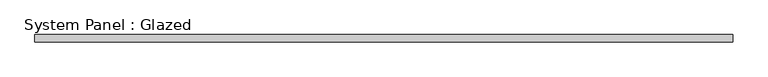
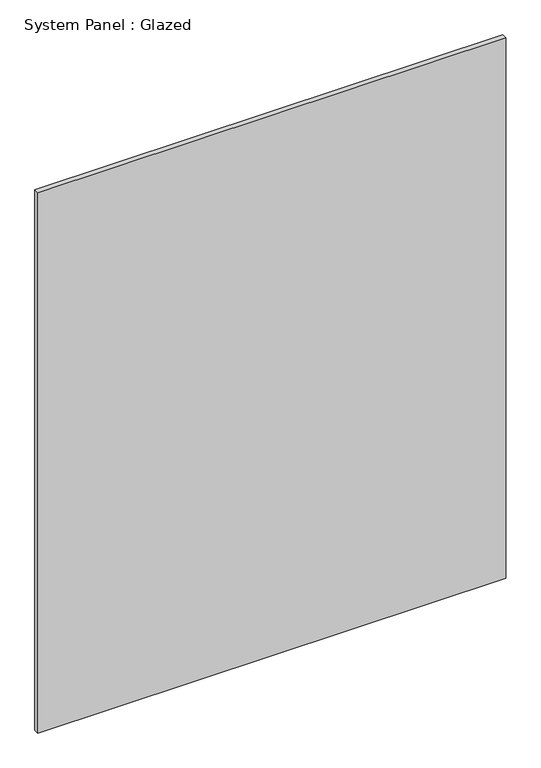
"""IFC4 building model written with IfcOpenShell, lengths in millimetres: plate geometry, System Panel : Glazed."""

import ifcopenshell
import ifcopenshell.guid

model = None  # the IFC model being written
_history = None  # IfcOwnerHistory: only IFC2X3 demands one
_inside = {}  # id of a spatial element -> (the spatial element, [elements in it])
_under = {}  # id of a project, library or spatial element -> (it, [spatial elements below it])
_declared = {}  # id of a project -> (the project, [libraries it declares])
_typed = {}  # id of a type object -> (the type object, [elements of that type])
_made_of = {}  # id of a material, layer set ... -> (it, [elements and type objects made of it])


def new_model(schema):
    """Start an empty IFC model of exactly this schema.

    Asked for "IFC4X3", IfcOpenShell would pick the latest addendum, in which some entities
    have other attributes; the version numbers below select the first issue.
    IFC2X3 requires an IfcOwnerHistory on every rooted entity: one is made here for all.
    """
    global model, _history
    if schema == "IFC4X3":
        model = ifcopenshell.file(schema_version=(4, 3, 0, 0))
    else:
        model = ifcopenshell.file(schema=schema)
    _inside.clear()
    _under.clear()
    _declared.clear()
    _typed.clear()
    _made_of.clear()
    _history = None
    if model.schema == "IFC2X3":
        org = make("IfcOrganization", Name="unknown")
        user = make(
            "IfcPersonAndOrganization",
            ThePerson=make("IfcPerson", FamilyName="unknown"),
            TheOrganization=org,
        )
        app = make(
            "IfcApplication",
            ApplicationDeveloper=org,
            Version="unknown",
            ApplicationFullName="unknown",
            ApplicationIdentifier="unknown",
        )
        _history = make(
            "IfcOwnerHistory",
            OwningUser=user,
            OwningApplication=app,
            ChangeAction="ADDED",
            CreationDate=0,
        )
    return model


def make(cls, **values):
    """One entity of the class cls with the attributes given. An attribute that is None is left unset."""
    return model.create_entity(
        cls, **{name: value for name, value in values.items() if value is not None}
    )


def rooted(cls, **values):
    """An entity with a GlobalId (a new one), such as an element, a storey or a relation."""
    return make(cls, GlobalId=ifcopenshell.guid.new(), OwnerHistory=_history, **values)


def si_unit(unit_type, name, prefix=None):
    """IfcSIUnit, for example si_unit("LENGTHUNIT", "METRE", prefix="MILLI")."""
    return make("IfcSIUnit", UnitType=unit_type, Prefix=prefix, Name=name)


def assignment(units):
    """IfcUnitAssignment: the units of a project."""
    return None if units is None else make("IfcUnitAssignment", Units=units)


def point(xyz):
    """IfcCartesianPoint."""
    return None if xyz is None else make("IfcCartesianPoint", Coordinates=xyz)


def direction(xyz):
    """IfcDirection."""
    return None if xyz is None else make("IfcDirection", DirectionRatios=xyz)


def frame(location, z_axis=None, x_axis=None):
    """IfcAxis2Placement3D, a coordinate frame: its origin and axes. An axis left out is left unset."""
    return make(
        "IfcAxis2Placement3D",
        Location=point(location),
        Axis=direction(z_axis),
        RefDirection=direction(x_axis),
    )


def origin():
    """The frame at (0, 0, 0) with its axes left unset."""
    return frame((0.0, 0.0, 0.0))


def origin_with_axes():
    """The frame at (0, 0, 0) with the z axis (0, 0, 1) and the x axis (1, 0, 0) written out."""
    return frame((0.0, 0.0, 0.0), z_axis=(0.0, 0.0, 1.0), x_axis=(1.0, 0.0, 0.0))


def place(relative_to, where):
    """IfcLocalPlacement: puts the frame where relative to a parent placement (None: the world)."""
    return make(
        "IfcLocalPlacement", PlacementRelTo=relative_to, RelativePlacement=where
    )


def context(
    kind, dimensions, precision=None, world=None, true_north=None, identifier=None
):
    """IfcGeometricRepresentationContext, for example the 3D "Model" context."""
    return make(
        "IfcGeometricRepresentationContext",
        ContextIdentifier=identifier,
        ContextType=kind,
        CoordinateSpaceDimension=dimensions,
        Precision=precision,
        WorldCoordinateSystem=world,
        TrueNorth=true_north,
    )


def project(units=None, contexts=None):
    """IfcProject with its units and contexts."""
    return rooted(
        "IfcProject",
        Name="project",
        RepresentationContexts=contexts,
        UnitsInContext=assignment(units),
    )


def spatial(cls, under=None, at=None, **own):
    """A site, building, storey or space (cls), placed at a placement, below another one or the project."""
    s = rooted(cls, ObjectPlacement=at, **own)
    if under is not None:
        _under.setdefault(under.id(), (under, []))[1].append(s)
    return s


def polyline(points):
    """IfcPolyline through the points."""
    return make("IfcPolyline", Points=[point(p) for p in points])


def outline(outer, holes=None, kind="AREA"):
    """IfcArbitraryClosedProfileDef: a profile drawn as a closed curve; with holes, ...WithVoids."""
    if holes is None:
        return make("IfcArbitraryClosedProfileDef", ProfileType=kind, OuterCurve=outer)
    return make(
        "IfcArbitraryProfileDefWithVoids",
        ProfileType=kind,
        OuterCurve=outer,
        InnerCurves=holes,
    )


def extrude(swept, where, along, depth):
    """IfcExtrudedAreaSolid: the profile swept, set in the frame where, extruded along a direction by depth."""
    return make(
        "IfcExtrudedAreaSolid",
        SweptArea=swept,
        Position=where,
        ExtrudedDirection=direction(along),
        Depth=depth,
    )


def shape(context_of_items, identifier, shape_type, items):
    """IfcShapeRepresentation: the items that make up one representation, for example the "Body"."""
    return make(
        "IfcShapeRepresentation",
        ContextOfItems=context_of_items,
        RepresentationIdentifier=identifier,
        RepresentationType=shape_type,
        Items=items,
    )


def source(mapping_origin, context_of_items, identifier, shape_type, items):
    """IfcRepresentationMap: a shape defined once, which mapped items show again and again."""
    return make(
        "IfcRepresentationMap",
        MappingOrigin=mapping_origin,
        MappedRepresentation=shape(context_of_items, identifier, shape_type, items),
    )


def transform(
    local_origin,
    x_axis=None,
    y_axis=None,
    z_axis=None,
    scale=None,
    scale2=None,
    scale3=None,
    uniform=True,
):
    """IfcCartesianTransformationOperator3D, or its non-uniform kind. x_axis, y_axis, z_axis: its Axis1, 2, 3."""
    if uniform:
        return make(
            "IfcCartesianTransformationOperator3D",
            Axis1=direction(x_axis),
            Axis2=direction(y_axis),
            LocalOrigin=point(local_origin),
            Scale=scale,
            Axis3=direction(z_axis),
        )
    return make(
        "IfcCartesianTransformationOperator3DnonUniform",
        Axis1=direction(x_axis),
        Axis2=direction(y_axis),
        LocalOrigin=point(local_origin),
        Scale=scale,
        Axis3=direction(z_axis),
        Scale2=scale2,
        Scale3=scale3,
    )


def mapped(mapping_source, mapping_target):
    """IfcMappedItem: shows the shape of a source again, moved by a transform."""
    return make(
        "IfcMappedItem", MappingSource=mapping_source, MappingTarget=mapping_target
    )


def made_of(thing, what):
    """Note that an element or type object is made of a material, layer set ...; save() writes the relation."""
    if what is not None:
        _made_of.setdefault(what.id(), (what, []))[1].append(thing)
    return thing


def element(
    cls,
    number,
    at=None,
    inside=None,
    cuts=None,
    type_object=None,
    material=None,
    context=None,
    identifier="Body",
    shape_type=None,
    held_by="IfcProductDefinitionShape",
    body=None,
    shapes=None,
    **own,
):
    """One element of the class cls, such as IfcWall. Its Tag is "e" and its number.

    at: its placement. inside: the storey or other place that contains it. cuts: it is an
    opening in that element (IfcRelVoidsElement). A single representation is given by context,
    identifier, shape_type and body (its items); several are given by shapes. held_by: the class
    of the entity that holds the representations. save() writes the other relations.
    """
    e = rooted(cls, Tag="e%d" % number, ObjectPlacement=at, **own)
    if body is not None:
        shapes = [shape(context, identifier, shape_type, body)]
    if shapes is not None:
        e.Representation = make(held_by, Representations=shapes)
    if inside is not None:
        _inside.setdefault(inside.id(), (inside, []))[1].append(e)
    if cuts is not None:
        rooted(
            "IfcRelVoidsElement", RelatingBuildingElement=cuts, RelatedOpeningElement=e
        )
    if type_object is not None:
        _typed.setdefault(type_object.id(), (type_object, []))[1].append(e)
    return made_of(e, material)


def aggregate(whole, parts):
    """IfcRelAggregates: a whole, such as a stair, and the parts it consists of."""
    return rooted("IfcRelAggregates", RelatingObject=whole, RelatedObjects=parts)


def save(model, path):
    """Write the relations noted so far, then the file.

    IfcRelAggregates (storeys below a building ...), IfcRelContainedInSpatialStructure (elements
    in a storey), IfcRelDefinesByType, IfcRelAssociatesMaterial and IfcRelDeclares: one each for
    every whole, place, type object, material and project.
    """
    for whole, parts in _under.values():
        aggregate(whole, parts)
    for where, things in _inside.values():
        rooted(
            "IfcRelContainedInSpatialStructure",
            RelatedElements=things,
            RelatingStructure=where,
        )
    for kind, things in _typed.values():
        rooted("IfcRelDefinesByType", RelatedObjects=things, RelatingType=kind)
    for what, things in _made_of.values():
        rooted("IfcRelAssociatesMaterial", RelatedObjects=things, RelatingMaterial=what)
    for by, libraries in _declared.values():
        rooted("IfcRelDeclares", RelatingContext=by, RelatedDefinitions=libraries)
    model.write(path)


def system_panel_glazed_f5e36016(model_context):
    return source(origin(), model_context, "Body", "SweptSolid", [
        extrude(outline(polyline([(1222.3750001, -44.45), (-1222.3750001, -44.45), (-1222.3750001, -19.05), (1222.3750001, -19.05), (1222.3750001, -44.45)])), origin_with_axes(), (0.0, 0.0, 1.0), 2984.5),
    ])


if __name__ == "__main__":
    model = new_model("IFC4")
    model_context = context("Model", 3, world=origin())
    ifc_project = project(units=[si_unit("LENGTHUNIT", "METRE", prefix="MILLI")], contexts=[model_context])
    site = spatial("IfcSite", under=ifc_project)
    building = spatial("IfcBuilding", under=site)
    placement = place(None, origin())
    system_panel_glazed_shape = system_panel_glazed_f5e36016(model_context)
    element("IfcPlate", 1, ObjectType="System Panel : Glazed", at=placement, inside=building, context=model_context, shape_type="MappedRepresentation", body=[
        mapped(system_panel_glazed_shape, transform((0.0, 0.0, 0.0), x_axis=(1.0, 0.0, 0.0), y_axis=(0.0, 1.0, 0.0), z_axis=(0.0, 0.0, 1.0))),
    ])
    save(model, "model.ifc")
